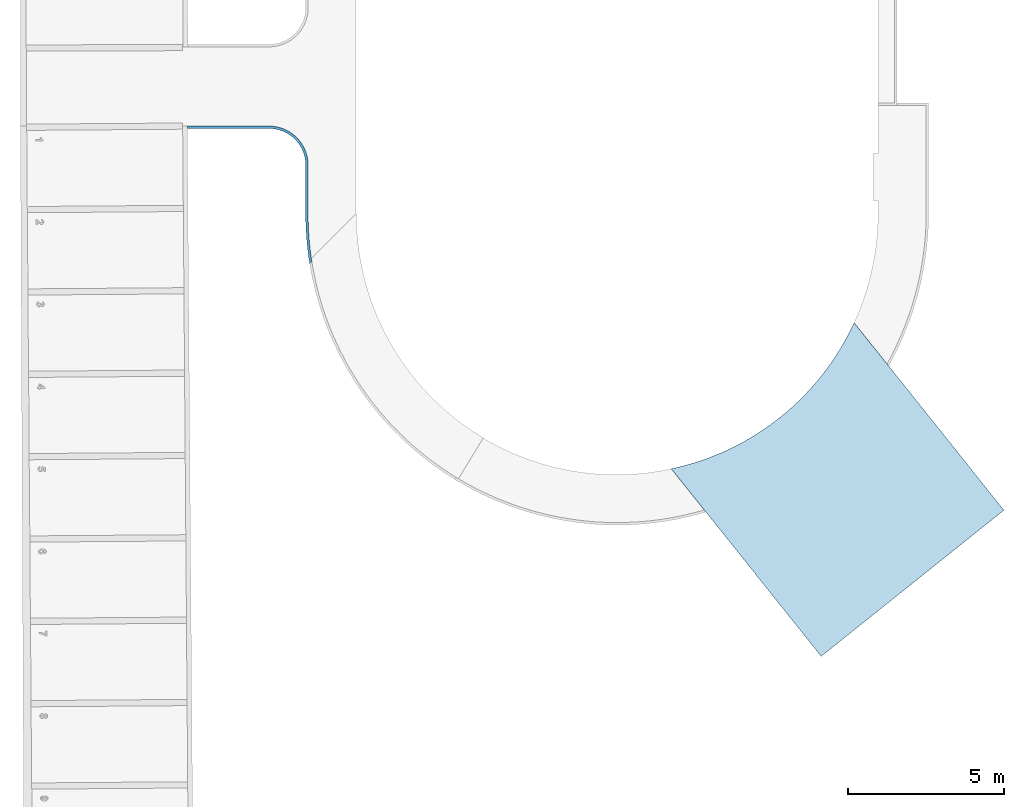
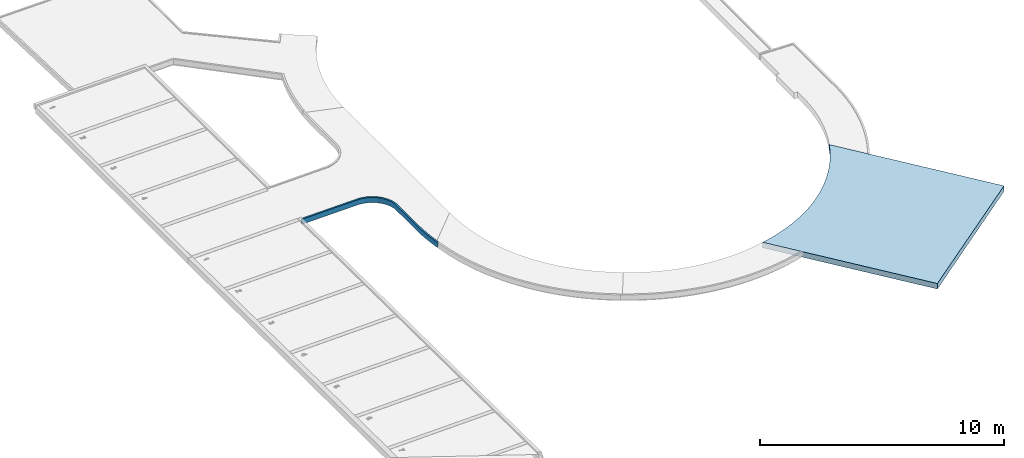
# One storey, part 3 of 8: 2 slabs.
"""IFC4 building model written with IfcOpenShell, lengths in millimetres."""

from ifc_helpers import new_model, entity, si_unit, converted_unit, derived_unit, direction, frame, origin_with_axes, place, context, subcontext, project, spatial, polygons, material, constituent, constituent_set, type_object, element, save


model = new_model("IFC4")

# Units and contexts
model_context = context("Model", 3, precision=0.01, world=origin_with_axes(), true_north=direction((0.0, 1.0)))
body_context = subcontext(model_context, "Body", "Model", "MODEL_VIEW")
ifc_project = project(units=[si_unit("LENGTHUNIT", "METRE", prefix="MILLI"), si_unit("AREAUNIT", "SQUARE_METRE"), si_unit("VOLUMEUNIT", "CUBIC_METRE"), converted_unit("PLANEANGLEUNIT", "DEGREE", entity("IfcPlaneAngleMeasure", 0.0174532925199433), si_unit("PLANEANGLEUNIT", "RADIAN"), dimensions=[0, 0, 0, 0, 0, 0, 0]), converted_unit("TIMEUNIT", "Year", entity("IfcTimeMeasure", 31557600.0), si_unit("TIMEUNIT", "SECOND"), dimensions=[0, 0, 1, 0, 0, 0, 0]), si_unit("MASSUNIT", "GRAM", prefix="KILO"), si_unit("THERMODYNAMICTEMPERATUREUNIT", "DEGREE_CELSIUS"), si_unit("LUMINOUSINTENSITYUNIT", "LUMEN"), si_unit("ENERGYUNIT", "JOULE", prefix="MEGA"), derived_unit("THERMALCONDUCTANCEUNIT", [(si_unit("POWERUNIT", "WATT"), 1), (si_unit("LENGTHUNIT", "METRE"), -1), (si_unit("THERMODYNAMICTEMPERATUREUNIT", "KELVIN"), -1)]), derived_unit("SPECIFICHEATCAPACITYUNIT", [(si_unit("ENERGYUNIT", "JOULE"), 1), (si_unit("MASSUNIT", "GRAM", prefix="KILO"), -1), (si_unit("THERMODYNAMICTEMPERATUREUNIT", "KELVIN"), -1)]), derived_unit("MASSDENSITYUNIT", [(si_unit("MASSUNIT", "GRAM", prefix="KILO"), 1), (si_unit("VOLUMEUNIT", "CUBIC_METRE"), -1)])], contexts=[model_context])

# Site, building, storey
site_placement = place(None, origin_with_axes())
site = spatial("IfcSite", under=ifc_project, at=site_placement, Name="Exteriér", CompositionType="ELEMENT")
building_placement = place(site_placement, origin_with_axes())
building = spatial("IfcBuilding", under=site, at=building_placement, Name="Univerzitní lezecké centrum", CompositionType="ELEMENT")
storey_placement = place(building_placement, origin_with_axes())
storey = spatial("IfcBuildingStorey", under=building, at=storey_placement, Name="1.NP", CompositionType="ELEMENT", Elevation=0.0)

# Slabs
ifc_material_1 = material(Name="Dřevěná prkna - terasová")
ifc_constituent_1 = constituent(ifc_material_1, Name="Dřevěná prkna - terasová")
ifc_material_2 = material(Name="Dřevo - nosné")
ifc_constituent_2 = constituent(ifc_material_2, Name="Dřevo - nosné 1")
ifc_constituent_3 = constituent(ifc_material_2, Name="Dřevo - nosné 2")
ifc_constituent_set = constituent_set(constituents=[ifc_constituent_1, ifc_constituent_2, ifc_constituent_3], Name="!Terasa - dřevěná na zemních vrutech")
slab_type_1 = type_object("IfcSlabType", Name="!Terasa - dřevěná na zemních vrutech 275", PredefinedType="ROOF")
slab_1_placement = place(storey_placement, frame((4185.868053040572, -8477.830308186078, -275.0262695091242), z_axis=(0.0, 0.0, 1.0), x_axis=(0.7811182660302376, 0.6243830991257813, 0.0)))
element("IfcSlab", 1, at=slab_1_placement, inside=storey, type_object=slab_type_1, material=ifc_constituent_set, PredefinedType="ROOF", context=body_context, shape_type="Tessellation", body=[
    polygons([(-0.0007752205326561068, 0.05772071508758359, 275.0258952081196), (-0.03639480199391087, -1690.446433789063, 252.1782092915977), (-0.08310588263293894, -7694.594001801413, 171.0302999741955), (7499.916895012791, -7694.652350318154, 171.0295113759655), (7499.957495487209, -1690.535311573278, 252.1770080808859), (7500.000002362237, 0.0, 275.0251150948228), (7422.730313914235, -39.68378326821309, 274.4887765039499), (7159.814168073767, -162.6249184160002, 272.8271890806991), (6892.789530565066, -276.3670188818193, 271.2899294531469), (6621.978145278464, -380.7730342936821, 269.8788498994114), (6347.706318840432, -475.7171635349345, 268.5956506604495), (6070.304527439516, -561.0850063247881, 267.4418778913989), (5790.107018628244, -636.7737010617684, 266.4189217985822), (5507.451408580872, -702.6920487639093, 265.5280149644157), (5222.678275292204, -758.7606229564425, 264.7702308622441), (4936.130748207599, -804.9118653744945, 264.1464825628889), (4648.154094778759, -841.0901673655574, 263.6575216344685), (4359.095304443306, -867.2519368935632, 263.3039372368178), (4069.302670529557, -883.3656510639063, 263.0861554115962), (3779.125370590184, -889.4118941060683, 263.0044385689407), (3488.913045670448, -885.3833807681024, 263.0588851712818), (3199.015379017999, -871.2849650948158, 263.2494296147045), (2909.781674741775, -847.1336345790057, 263.5758423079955), (2621.56043692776, -812.9584896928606, 264.0377299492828), (2334.698949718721, -768.8007088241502, 264.6345359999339), (2049.542858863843, -714.7134986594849, 265.3655413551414), (1766.43575524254, -650.7620300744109, 266.2298652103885), (1485.718760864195, -577.0233596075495, 267.2264661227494), (1207.730117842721, -493.5863366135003, 268.3541432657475), (932.804780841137, -400.5514962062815, 269.6115378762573), (661.2740134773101, -298.0309381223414, 270.9971348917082), (393.4649891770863, -186.1481916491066, 272.5092647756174), (129.7003969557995, -65.03806678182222, 274.1461055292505), (-0.0007823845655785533, 0.05772428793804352, 250.0236120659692), (-0.03639481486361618, -1690.108581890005, 227.1804922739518), (-0.08310851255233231, -7694.594001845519, 146.028016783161), (7499.916892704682, -7694.65235032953, 146.0272281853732), (7499.957495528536, -1690.197459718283, 227.1792910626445), (7499.999993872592, -4.315786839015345e-06, 250.0228318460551), (7422.730313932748, -39.68378326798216, 249.4864933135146), (7159.81416806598, -162.6249183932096, 247.8249058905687), (6892.78953054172, -276.367018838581, 246.2876462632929), (6621.978145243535, -380.7730343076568, 244.8765667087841), (6347.706318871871, -475.7171635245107, 243.5933674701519), (6070.304527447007, -561.0850063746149, 242.4395947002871), (5790.107018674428, -636.773701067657, 241.4166386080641), (5507.451408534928, -702.6920487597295, 240.5257317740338), (5222.678275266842, -758.7606229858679, 239.767947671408), (4936.130748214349, -804.9118653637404, 239.1441993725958), (4648.154094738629, -841.0901673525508, 238.6552384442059), (4359.095304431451, -867.2519368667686, 238.3016540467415), (4069.302670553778, -883.3656510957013, 238.0838722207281), (3779.125370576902, -889.4118941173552, 238.0021553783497), (3488.913045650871, -885.3833807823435, 238.0566019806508), (3199.015379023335, -871.2849650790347, 238.2471464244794), (2909.781674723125, -847.1336345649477, 238.5735591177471), (2621.56043695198, -812.9584896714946, 239.0354467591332), (2334.698949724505, -768.800708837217, 239.6322528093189), (2049.542858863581, -714.7134986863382, 240.3632581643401), (1766.435755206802, -650.7620300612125, 241.2275820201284), (1485.718760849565, -577.0233596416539, 242.22418293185), (1207.730117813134, -493.5863365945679, 243.3518600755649), (932.8047808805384, -400.5514961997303, 244.6092546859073), (661.2740134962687, -298.0309381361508, 245.9948517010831), (393.4649891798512, -186.1481916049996, 247.5069815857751), (129.7003969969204, -65.03806679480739, 249.1438223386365)], [[[1, 2, 3, 4, 5, 6, 7, 8, 9, 10, 11, 12, 13, 14, 15, 16, 17, 18, 19, 20, 21, 22, 23, 24, 25, 26, 27, 28, 29, 30, 31, 32, 33]], [[1, 34, 35, 2]], [[2, 35, 36, 3]], [[3, 36, 37, 4]], [[4, 37, 38, 5]], [[5, 38, 39, 6]], [[6, 39, 40, 7]], [[7, 40, 41, 8]], [[8, 41, 42, 9]], [[9, 42, 43, 10]], [[10, 43, 44, 11]], [[11, 44, 45, 12]], [[12, 45, 46, 13]], [[13, 46, 47, 14]], [[14, 47, 48, 15]], [[15, 48, 49, 16]], [[16, 49, 50, 17]], [[17, 50, 51, 18]], [[18, 51, 52, 19]], [[19, 52, 53, 20]], [[20, 53, 54, 21]], [[21, 54, 55, 22]], [[22, 55, 56, 23]], [[23, 56, 57, 24]], [[24, 57, 58, 25]], [[25, 58, 59, 26]], [[26, 59, 60, 27]], [[27, 60, 61, 28]], [[28, 61, 62, 29]], [[29, 62, 63, 30]], [[30, 63, 64, 31]], [[31, 64, 65, 32]], [[32, 65, 66, 33]], [[33, 66, 34, 1]], [[34, 66, 65, 64, 63, 62, 61, 60, 59, 58, 57, 56, 55, 54, 53, 52, 51, 50, 49, 48, 47, 46, 45, 44, 43, 42, 41, 40, 39, 38, 37, 36, 35]]], closed=True),
    polygons([(129.7003969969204, -65.03806679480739, 249.1438223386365), (129.7003971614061, -65.03806684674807, 149.1346895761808), (-0.0008110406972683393, 0.05773857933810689, 150.0144794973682), (-0.0007823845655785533, 0.05772428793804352, 250.0236120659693), (393.4649891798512, -186.1481916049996, 247.5069815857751), (393.4649891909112, -186.1481914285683, 147.4978488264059), (661.2740135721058, -298.0309381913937, 145.9857189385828), (932.8047810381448, -400.5514961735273, 144.6001219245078), (1207.730117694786, -493.5863365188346, 143.3427273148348), (1485.71876079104, -577.0233597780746, 142.2150501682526), (1766.435755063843, -650.7620300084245, 141.2184492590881), (2049.542858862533, -714.7134987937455, 140.3541254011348), (2334.698949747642, -768.8007088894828, 139.6231200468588), (2621.560437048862, -812.9584895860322, 139.0263139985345), (2909.781674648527, -847.1336345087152, 138.5644263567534), (3199.015379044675, -871.2849650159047, 138.2380136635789), (3488.913045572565, -885.3833808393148, 138.0474692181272), (3779.125370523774, -889.4118941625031, 137.9930226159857), (4069.302670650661, -883.3656512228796, 138.0747394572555), (4359.095304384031, -867.2519367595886, 138.2925212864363), (4648.154094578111, -841.0901673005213, 138.6461056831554), (4936.130748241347, -804.9118653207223, 139.1350666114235), (5222.678275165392, -758.7606231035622, 139.7588149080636), (5507.451408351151, -702.6920487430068, 140.516599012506), (5790.107018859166, -636.7737010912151, 141.4075058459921), (6070.304527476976, -561.085006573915, 142.4304619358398), (6347.706318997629, -475.7171634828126, 143.5842347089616), (6621.978145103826, -380.7730343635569, 144.8674339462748), (6892.789530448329, -276.3670186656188, 146.2785135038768), (7159.814168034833, -162.624918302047, 147.815773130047), (7422.730314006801, -39.68378326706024, 149.4773605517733), (7499.999959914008, -2.157892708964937e-05, 150.0136988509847), (7499.957495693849, -1688.846052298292, 127.188422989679), (7499.916883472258, -7694.65235037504, 46.01809542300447), (-0.08311903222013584, -7694.594002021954, 46.01888401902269), (-0.03639486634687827, -1688.757174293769, 127.1896242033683), (-0.03639481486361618, -1690.108581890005, 227.1804922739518), (-0.08310851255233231, -7694.594001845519, 146.028016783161), (7499.916892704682, -7694.65235032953, 146.0272281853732), (7499.957495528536, -1690.197459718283, 227.1792910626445), (7499.999993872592, -4.315786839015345e-06, 250.0228318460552), (7422.730313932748, -39.68378326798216, 249.4864933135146), (7159.81416806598, -162.6249183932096, 247.8249058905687), (6892.78953054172, -276.367018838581, 246.2876462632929), (6621.978145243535, -380.7730343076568, 244.8765667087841), (6347.706318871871, -475.7171635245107, 243.5933674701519), (6070.304527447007, -561.0850063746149, 242.4395947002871), (5790.107018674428, -636.773701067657, 241.4166386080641), (5507.451408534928, -702.6920487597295, 240.5257317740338), (5222.678275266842, -758.7606229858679, 239.7679476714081), (4936.130748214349, -804.9118653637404, 239.1441993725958), (4648.154094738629, -841.0901673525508, 238.6552384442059), (4359.095304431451, -867.2519368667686, 238.3016540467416), (4069.302670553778, -883.3656510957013, 238.0838722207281), (3779.125370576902, -889.4118941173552, 238.0021553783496), (3488.913045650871, -885.3833807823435, 238.0566019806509), (3199.015379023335, -871.2849650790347, 238.2471464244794), (2909.781674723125, -847.1336345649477, 238.5735591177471), (2621.56043695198, -812.9584896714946, 239.0354467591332), (2334.698949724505, -768.800708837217, 239.6322528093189), (2049.542858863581, -714.7134986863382, 240.3632581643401), (1766.435755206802, -650.7620300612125, 241.2275820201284), (1485.718760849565, -577.0233596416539, 242.22418293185), (1207.730117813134, -493.5863365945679, 243.3518600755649), (932.8047808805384, -400.5514961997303, 244.6092546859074), (661.2740134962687, -298.0309381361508, 245.9948517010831)], [[[1, 2, 3, 4]], [[5, 6, 2, 1]], [[3, 2, 6, 7, 8, 9, 10, 11, 12, 13, 14, 15, 16, 17, 18, 19, 20, 21, 22, 23, 24, 25, 26, 27, 28, 29, 30, 31, 32, 33, 34, 35, 36]], [[4, 3, 36, 37]], [[4, 37, 38, 39, 40, 41, 42, 43, 44, 45, 46, 47, 48, 49, 50, 51, 52, 53, 54, 55, 56, 57, 58, 59, 60, 61, 62, 63, 64, 65, 66, 5, 1]], [[66, 7, 6, 5]], [[65, 8, 7, 66]], [[64, 9, 8, 65]], [[63, 10, 9, 64]], [[62, 11, 10, 63]], [[61, 12, 11, 62]], [[60, 13, 12, 61]], [[59, 14, 13, 60]], [[58, 15, 14, 59]], [[57, 16, 15, 58]], [[56, 17, 16, 57]], [[55, 18, 17, 56]], [[54, 19, 18, 55]], [[53, 20, 19, 54]], [[52, 21, 20, 53]], [[51, 22, 21, 52]], [[50, 23, 22, 51]], [[49, 24, 23, 50]], [[48, 25, 24, 49]], [[47, 26, 25, 48]], [[46, 27, 26, 47]], [[45, 28, 27, 46]], [[44, 29, 28, 45]], [[43, 30, 29, 44]], [[42, 31, 30, 43]], [[41, 32, 31, 42]], [[40, 33, 32, 41]], [[39, 34, 33, 40]], [[38, 35, 34, 39]], [[37, 36, 35, 38]]], closed=True),
    polygons([(129.7003971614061, -65.03806684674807, 149.1346895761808), (129.7003974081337, -65.03806692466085, -0.8790099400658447), (-0.0008540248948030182, 0.05776001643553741, 0.0007802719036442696), (-0.0008110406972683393, 0.05773857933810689, 150.0144794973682), (393.4649891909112, -186.1481914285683, 147.4978488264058), (393.4649892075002, -186.1481911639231, -2.515850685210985), (661.2740136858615, -298.0309382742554, -4.027980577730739), (932.8047812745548, -400.5514961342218, -5.413577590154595), (1207.730117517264, -493.5863364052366, -6.67097219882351), (1485.718760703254, -577.0233599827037, -7.798649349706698), (1766.435754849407, -650.7620299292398, -8.795250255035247), (2049.542858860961, -714.7134989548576, -9.659574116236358), (2334.69894978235, -768.8007089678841, -10.39057946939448), (2621.560437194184, -812.9584894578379, -10.98738551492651), (2909.781674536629, -847.1336344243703, -11.44927315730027), (3199.015379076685, -871.2849649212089, -11.77568585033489), (3488.913045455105, -885.3833809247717, -11.96623029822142), (3779.125370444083, -889.4118942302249, -12.02067690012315), (4069.302670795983, -883.3656514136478, -11.93896006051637), (4359.095304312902, -867.2519365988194, -11.72117822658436), (4648.154094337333, -841.0901672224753, -11.36759383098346), (4936.130748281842, -804.911865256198, -10.87863290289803), (5222.678275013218, -758.7606232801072, -10.25488460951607), (5507.451408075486, -702.6920487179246, -9.497100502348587), (5790.107019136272, -636.7737011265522, -8.606193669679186), (6070.304527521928, -561.0850068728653, -7.583237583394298), (6347.706319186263, -475.7171634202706, -6.429464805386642), (6621.97814489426, -380.7730344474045, -5.146265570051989), (6892.789530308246, -276.3670184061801, -3.73518600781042), (7159.814167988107, -162.624918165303, -2.19792638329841), (7422.730314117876, -39.68378326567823, -0.5363389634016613), (7499.99990897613, -4.74736374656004e-05, -1.014183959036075e-06), (7499.95749594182, -1686.818941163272, -22.79787949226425), (7499.916869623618, -7694.652350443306, -103.9956040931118), (-0.08313481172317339, -7694.594002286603, -103.9948154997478), (-0.03639494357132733, -1686.730062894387, -22.79667827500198), (-0.03639486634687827, -1688.757174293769, 127.1896242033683), (-0.08311903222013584, -7694.594002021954, 46.01888401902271), (7499.916883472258, -7694.65235037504, 46.01809542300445), (7499.957495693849, -1688.846052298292, 127.188422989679), (7499.999959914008, -2.157892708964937e-05, 150.0136988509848), (7422.730314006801, -39.68378326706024, 149.4773605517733), (7159.814168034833, -162.624918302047, 147.8157731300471), (6892.789530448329, -276.3670186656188, 146.2785135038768), (6621.978145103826, -380.7730343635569, 144.8674339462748), (6347.706318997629, -475.7171634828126, 143.5842347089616), (6070.304527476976, -561.085006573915, 142.4304619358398), (5790.107018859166, -636.7737010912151, 141.407505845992), (5507.451408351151, -702.6920487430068, 140.516599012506), (5222.678275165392, -758.7606231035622, 139.7588149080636), (4936.130748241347, -804.9118653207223, 139.1350666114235), (4648.154094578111, -841.0901673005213, 138.6461056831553), (4359.095304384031, -867.2519367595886, 138.2925212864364), (4069.302670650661, -883.3656512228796, 138.0747394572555), (3779.125370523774, -889.4118941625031, 137.9930226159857), (3488.913045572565, -885.3833808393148, 138.0474692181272), (3199.015379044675, -871.2849650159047, 138.2380136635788), (2909.781674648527, -847.1336345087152, 138.5644263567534), (2621.560437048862, -812.9584895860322, 139.0263139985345), (2334.698949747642, -768.8007088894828, 139.6231200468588), (2049.542858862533, -714.7134987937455, 140.3541254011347), (1766.435755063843, -650.7620300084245, 141.2184492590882), (1485.71876079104, -577.0233597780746, 142.2150501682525), (1207.730117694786, -493.5863365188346, 143.3427273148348), (932.8047810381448, -400.5514961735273, 144.6001219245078), (661.2740135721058, -298.0309381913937, 145.9857189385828)], [[[1, 2, 3, 4]], [[5, 6, 2, 1]], [[2, 6, 7, 8, 9, 10, 11, 12, 13, 14, 15, 16, 17, 18, 19, 20, 21, 22, 23, 24, 25, 26, 27, 28, 29, 30, 31, 32, 33, 34, 35, 36, 3]], [[4, 3, 36, 37]], [[4, 37, 38, 39, 40, 41, 42, 43, 44, 45, 46, 47, 48, 49, 50, 51, 52, 53, 54, 55, 56, 57, 58, 59, 60, 61, 62, 63, 64, 65, 66, 5, 1]], [[66, 7, 6, 5]], [[65, 8, 7, 66]], [[64, 9, 8, 65]], [[63, 10, 9, 64]], [[62, 11, 10, 63]], [[61, 12, 11, 62]], [[60, 13, 12, 61]], [[59, 14, 13, 60]], [[58, 15, 14, 59]], [[57, 16, 15, 58]], [[56, 17, 16, 57]], [[55, 18, 17, 56]], [[54, 19, 18, 55]], [[53, 20, 19, 54]], [[52, 21, 20, 53]], [[51, 22, 21, 52]], [[50, 23, 22, 51]], [[49, 24, 23, 50]], [[48, 25, 24, 49]], [[47, 26, 25, 48]], [[46, 27, 26, 47]], [[45, 28, 27, 46]], [[44, 29, 28, 45]], [[43, 30, 29, 44]], [[42, 31, 30, 43]], [[41, 32, 31, 42]], [[40, 33, 32, 41]], [[39, 34, 33, 40]], [[38, 35, 34, 39]], [[37, 36, 35, 38]]], closed=True),
])
ifc_material_3 = material(Name="Beton prostý")
slab_type_2 = type_object("IfcSlabType", Name="Beton prostý  250", PredefinedType="ROOF")
slab_2_placement = place(storey_placement, frame((-5910.148351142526, 8400.000000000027, -175.7713243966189), z_axis=(0.0, 0.0, 1.0), x_axis=(0.0, -1.0, 0.0)))
element("IfcSlab", 2, at=slab_2_placement, inside=storey, type_object=slab_type_2, material=ifc_material_3, PredefinedType="ROOF", context=body_context, shape_type="Tessellation", body=[
    polygons([(10303.47308498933, -1490.342755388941, 220.2431398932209), (10233.62047636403, -1420.49014676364, 221.640192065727), (10135.38281246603, -1435.389567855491, 221.3422036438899), (9802.97861534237, -1479.631733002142, 220.4573603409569), (9488.64228560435, -1509.800507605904, 219.8539848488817), (9173.503771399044, -1529.930088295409, 219.4513932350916), (8857.883619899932, -1540.00000001, 219.2499950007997), (8699.99324404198, -1540.000000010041, 219.2499950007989), (7145.192074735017, -1540.000000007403, 219.2499950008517), (7089.054510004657, -1540.000000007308, 219.2499950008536), (6977.231367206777, -1550.06426501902, 219.0487097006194), (6866.760545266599, -1570.111763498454, 218.6477597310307), (6758.531490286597, -1599.98108477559, 218.0503733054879), (6653.415598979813, -1639.431738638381, 217.2613602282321), (6552.259202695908, -1688.146091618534, 216.2870731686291), (6455.876753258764, -1745.731924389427, 215.1353565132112), (6365.044265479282, -1811.725589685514, 213.8154832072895), (6280.493069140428, -1885.595745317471, 212.3380800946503), (6202.903920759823, -1966.747632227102, 210.7150423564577), (6132.901522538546, -2054.527863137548, 208.9594377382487), (6071.049492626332, -2148.229683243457, 207.0854013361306), (6017.845827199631, -2247.098660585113, 205.1080217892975), (5973.718890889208, -2350.338760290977, 203.0432197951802), (5939.023967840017, -2457.118753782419, 200.9076199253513), (5914.040401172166, -2566.578911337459, 198.7184167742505), (5898.969343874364, -2677.837924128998, 196.4932365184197), (5895.192074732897, -2790.00000000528, 194.2499950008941), (5895.192074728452, -5409.633116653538, 141.8573326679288), (5935.448688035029, -5409.881404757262, 141.8523669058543), (5975.192074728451, -5409.6956568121, 141.8560818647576), (5975.192074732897, -2790.000000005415, 194.2499950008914), (5975.19207473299, -2735.907635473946, 195.3318422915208), (5985.174102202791, -2628.184403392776, 197.4863069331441), (6005.052994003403, -2521.841724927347, 199.6131605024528), (6034.659150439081, -2417.78687831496, 201.6942574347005), (6073.739982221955, -2316.907622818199, 203.7118425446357), (6121.962065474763, -2220.064624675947, 205.6487025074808), (6178.913986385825, -2128.084114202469, 207.4883127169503), (6244.109851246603, -2041.750836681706, 209.2149782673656), (6316.993431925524, -1961.801357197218, 210.8139678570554), (6396.94291141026, -1888.917776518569, 212.2716394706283), (6483.276188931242, -1823.721911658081, 213.5755567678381), (6575.256699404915, -1766.769990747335, 214.714595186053), (6672.099697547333, -1718.547907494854, 215.6790368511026), (6772.978953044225, -1679.467075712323, 216.4606534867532), (6877.033799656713, -1649.860919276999, 217.0527766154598), (6983.376478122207, -1629.982027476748, 217.4503544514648), (7091.099710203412, -1620.000000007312, 217.6499950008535), (7145.192074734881, -1620.000000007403, 217.6499950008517), (8699.993243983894, -1620.00000001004, 217.6499950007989), (8858.355496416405, -1620.000000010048, 217.6499950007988), (9174.92054391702, -1609.9509859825, 217.8509752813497), (9491.007379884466, -1589.863076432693, 218.2527334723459), (9806.29773166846, -1559.756498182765, 218.8548650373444), (10120.47412861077, -1519.661566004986, 219.6567636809), (10303.47308538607, -1490.342755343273, -29.80685510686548), (10233.62047619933, -1420.490146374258, -28.40980292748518), (10135.38281276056, -1435.389567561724, -28.70779135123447), (9802.978615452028, -1479.631732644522, -29.59263465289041), (9488.642285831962, -1509.800508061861, -30.19601016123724), (9173.503771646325, -1529.930088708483, -30.59860177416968), (8857.883620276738, -1539.999999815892, -30.79999999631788), (8699.993243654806, -1539.999999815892, -30.79999999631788), (7145.192074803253, -1539.999999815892, -30.79999999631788), (7089.054510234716, -1539.999999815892, -30.79999999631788), (6977.231366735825, -1550.064265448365, -31.00128530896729), (6866.760545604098, -1570.111763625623, -31.40223527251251), (6758.531490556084, -1599.981084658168, -31.99962169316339), (6653.4155991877, -1639.431738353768, -32.78863476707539), (6552.259202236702, -1688.146091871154, -33.76292183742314), (6455.876752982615, -1745.731924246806, -34.91463848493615), (6365.044265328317, -1811.725589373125, -36.23451178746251), (6280.493068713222, -1885.595745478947, -37.71191490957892), (6202.903920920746, -1966.74763193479, -39.33495263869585), (6132.901522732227, -2054.527862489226, -41.09055724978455), (6071.049492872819, -2148.229683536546, -42.96459367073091), (6017.845827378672, -2247.098660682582, -44.94197321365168), (5973.718891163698, -2350.338759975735, -47.00677519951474), (5939.023967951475, -2457.118754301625, -49.14237508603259), (5914.040400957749, -2566.578910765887, -51.3315782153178), (5898.745290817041, -2679.491952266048, -53.589839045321), (5895.192074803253, -2785.000999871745, -55.70001999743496), (5895.192074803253, -5409.633116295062, -108.1926623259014), (5935.448687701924, -5409.881404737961, -108.1976280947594), (5975.192074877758, -5409.695656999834, -108.1939131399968), (5975.192074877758, -2785.000999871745, -55.70001999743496), (5975.192074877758, -2735.907636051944, -54.71815272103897), (5985.174102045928, -2628.18440317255, -52.56368806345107), (6005.052994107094, -2521.841725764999, -50.43683451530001), (6034.659150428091, -2417.786877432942, -48.35573754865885), (6073.739982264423, -2316.907623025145, -46.33815246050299), (6121.962065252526, -2220.064624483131, -44.40129248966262), (6178.913986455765, -2128.084114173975, -42.56168228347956), (6244.10985155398, -2041.750836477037, -40.83501672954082), (6316.993432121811, -1961.801357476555, -39.23602714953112), (6396.942911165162, -1888.917776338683, -37.77835552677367), (6483.276188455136, -1823.721911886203, -36.47443823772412), (6575.256699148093, -1766.769990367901, -35.335399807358), (6672.099697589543, -1718.547907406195, -34.37095814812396), (6772.978953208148, -1679.4670759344, -33.58934151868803), (6877.033800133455, -1649.860919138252, -32.99721838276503), (6983.376478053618, -1629.982027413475, -32.59964054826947), (7091.099710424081, -1619.999999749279, -32.39999999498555), (7145.192074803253, -1619.999999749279, -32.39999999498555), (8699.993243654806, -1619.999999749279, -32.39999999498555), (8858.35549628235, -1619.999999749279, -32.39999999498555), (9174.920544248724, -1609.950986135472, -32.19901972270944), (9491.007379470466, -1589.86307663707, -31.79726153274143), (9806.297731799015, -1559.756498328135, -31.19512996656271), (10120.47412828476, -1519.661566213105, -30.39323132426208)], [[[1, 2, 3, 4, 5, 6, 7, 8, 9, 10, 11, 12, 13, 14, 15, 16, 17, 18, 19, 20, 21, 22, 23, 24, 25, 26, 27, 28, 29, 30, 31, 32, 33, 34, 35, 36, 37, 38, 39, 40, 41, 42, 43, 44, 45, 46, 47, 48, 49, 50, 51, 52, 53, 54, 55]], [[2, 1, 56, 57]], [[3, 2, 57, 58]], [[4, 3, 58, 59]], [[5, 4, 59, 60]], [[6, 5, 60, 61]], [[7, 6, 61, 62]], [[8, 7, 62, 63]], [[9, 8, 63, 64]], [[10, 9, 64, 65]], [[11, 10, 65, 66]], [[12, 11, 66, 67]], [[13, 12, 67, 68]], [[14, 13, 68, 69]], [[15, 14, 69, 70]], [[16, 15, 70, 71]], [[17, 16, 71, 72]], [[18, 17, 72, 73]], [[19, 18, 73, 74]], [[20, 19, 74, 75]], [[21, 20, 75, 76]], [[22, 21, 76, 77]], [[23, 22, 77, 78]], [[24, 23, 78, 79]], [[25, 24, 79, 80]], [[26, 25, 80, 81]], [[27, 26, 81, 82]], [[28, 27, 82, 83]], [[29, 28, 83, 84]], [[30, 29, 84, 85]], [[31, 30, 85, 86]], [[32, 31, 86, 87]], [[33, 32, 87, 88]], [[34, 33, 88, 89]], [[35, 34, 89, 90]], [[36, 35, 90, 91]], [[37, 36, 91, 92]], [[38, 37, 92, 93]], [[39, 38, 93, 94]], [[40, 39, 94, 95]], [[41, 40, 95, 96]], [[42, 41, 96, 97]], [[43, 42, 97, 98]], [[44, 43, 98, 99]], [[45, 44, 99, 100]], [[46, 45, 100, 101]], [[47, 46, 101, 102]], [[48, 47, 102, 103]], [[49, 48, 103, 104]], [[50, 49, 104, 105]], [[51, 50, 105, 106]], [[52, 51, 106, 107]], [[53, 52, 107, 108]], [[54, 53, 108, 109]], [[55, 54, 109, 110]], [[1, 55, 110, 56]], [[57, 56, 110, 109, 108, 107, 106, 105, 104, 103, 102, 101, 100, 99, 98, 97, 96, 95, 94, 93, 92, 91, 90, 89, 88, 87, 86, 85, 84, 83, 82, 81, 80, 79, 78, 77, 76, 75, 74, 73, 72, 71, 70, 69, 68, 67, 66, 65, 64, 63, 62, 61, 60, 59, 58]]], closed=True),
])

save(model, "model.ifc")
